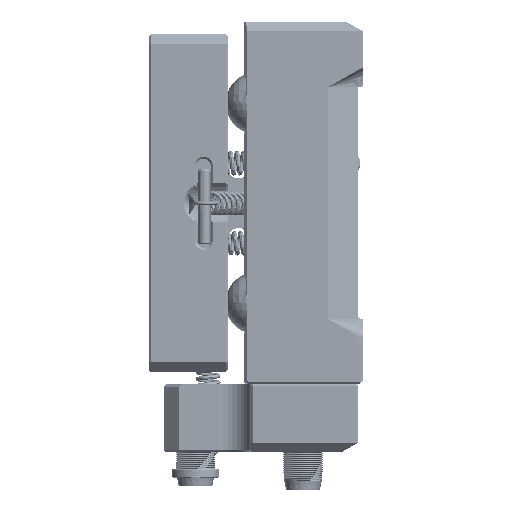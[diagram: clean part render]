
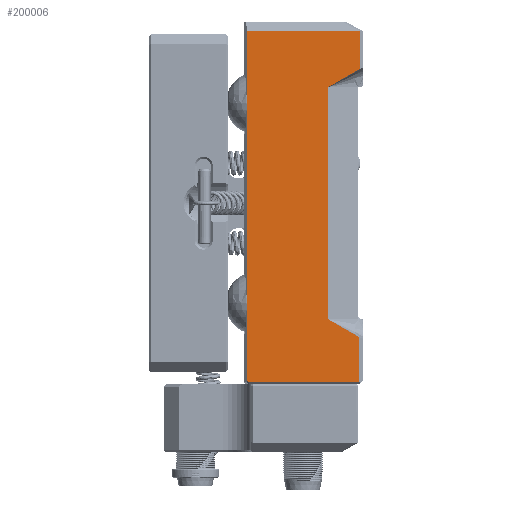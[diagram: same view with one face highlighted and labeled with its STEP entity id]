
A CAD part, left-side view. The second image highlights one B-rep face of the part: STEP entity #200006.
In plain terms, the highlighted planar face has unit normal (-1, 0, 0).
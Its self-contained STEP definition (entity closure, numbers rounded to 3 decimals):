
#189621=CARTESIAN_POINT('',(-29.972,-7.12,17.041));
#189718=DIRECTION('',(0.,0.,-1.));
#189719=VECTOR('',#189718,29.528);
#189720=CARTESIAN_POINT('',(-29.972,-3.175,14.764));
#189721=LINE('',#189720,#189719);
#190264=DIRECTION('',(0.,0.,1.));
#190265=VECTOR('',#190264,4.777);
#190266=CARTESIAN_POINT('',(-29.972,-7.12,17.041));
#190267=LINE('',#190266,#190265);
#190268=DIRECTION('',(0.,0.866,-0.5));
#190269=VECTOR('',#190268,4.555);
#190270=CARTESIAN_POINT('',(-29.972,-7.12,17.041));
#190271=LINE('',#190270,#190269);
#190272=DIRECTION('',(0.,0.866,0.5));
#190273=VECTOR('',#190272,4.546);
#190274=CARTESIAN_POINT('',(-29.972,-7.112,-17.037));
#190275=LINE('',#190274,#190273);
#190276=DIRECTION('',(0.,0.72,0.694));
#190277=VECTOR('',#190276,0.368);
#190278=CARTESIAN_POINT('',(-29.972,6.911,-22.765));
#190279=LINE('',#190278,#190277);
#190280=DIRECTION('',(0.,-1.,0.));
#190281=VECTOR('',#190280,14.296);
#190282=CARTESIAN_POINT('',(-29.972,7.176,21.819));
#190283=LINE('',#190282,#190281);
#190287=CARTESIAN_POINT('',(-29.972,-7.112,-17.037));
#190297=DIRECTION('',(0.,0.,-1.));
#190298=VECTOR('',#190297,5.728);
#190299=CARTESIAN_POINT('',(-29.972,-7.112,-17.037));
#190300=LINE('',#190299,#190298);
#190429=DIRECTION('',(0.,0.,-1.));
#190430=VECTOR('',#190429,44.328);
#190431=CARTESIAN_POINT('',(-29.972,7.176,21.819));
#190432=LINE('',#190431,#190430);
#190795=DIRECTION('',(0.,1.,0.));
#190796=VECTOR('',#190795,14.023);
#190797=CARTESIAN_POINT('',(-29.972,-7.112,-22.765));
#190798=LINE('',#190797,#190796);
#197081=CARTESIAN_POINT('',(-29.972,6.911,-22.765));
#197083=VERTEX_POINT('',#197081);
#197317=CARTESIAN_POINT('',(-29.972,-7.112,-22.765));
#197319=VERTEX_POINT('',#197317);
#197576=VERTEX_POINT('',#190287);
#197604=CARTESIAN_POINT('',(-29.972,-3.175,14.764));
#197605=VERTEX_POINT('',#197604);
#197610=CARTESIAN_POINT('',(-29.972,-3.175,-14.764));
#197611=VERTEX_POINT('',#197610);
#198075=CARTESIAN_POINT('',(-29.972,7.176,-22.509));
#198076=VERTEX_POINT('',#198075);
#198083=CARTESIAN_POINT('',(-29.972,7.176,21.819));
#198085=VERTEX_POINT('',#198083);
#198118=VERTEX_POINT('',#189621);
#198119=CARTESIAN_POINT('',(-29.972,-7.12,21.819));
#198120=VERTEX_POINT('',#198119);
#199986=CARTESIAN_POINT('',(-29.972,7.62,-23.019));
#199987=DIRECTION('',(1.,0.,0.));
#199988=DIRECTION('',(0.,0.,-1.));
#199989=AXIS2_PLACEMENT_3D('',#199986,#199987,#199988);
#199990=PLANE('',#199989);
#199991=ORIENTED_EDGE('',*,*,#199164,.F.);
#199992=ORIENTED_EDGE('',*,*,#199190,.T.);
#199993=ORIENTED_EDGE('',*,*,#199298,.T.);
#199994=ORIENTED_EDGE('',*,*,#199317,.F.);
#199996=ORIENTED_EDGE('',*,*,#199995,.T.);
#199998=ORIENTED_EDGE('',*,*,#199997,.T.);
#200000=ORIENTED_EDGE('',*,*,#199999,.T.);
#200002=ORIENTED_EDGE('',*,*,#200001,.F.);
#200003=ORIENTED_EDGE('',*,*,#199977,.T.);
#200004=EDGE_LOOP('',(#199991,#199992,#199993,#199994,#199996,#199998,#200000,
#200002,#200003));
#200005=FACE_OUTER_BOUND('',#200004,.F.);
#200006=ADVANCED_FACE('',(#200005),#199990,.F.);
#199164=EDGE_CURVE('',#198118,#198120,#190267,.T.);
#199190=EDGE_CURVE('',#198118,#197605,#190271,.T.);
#199298=EDGE_CURVE('',#197605,#197611,#189721,.T.);
#199317=EDGE_CURVE('',#197576,#197611,#190275,.T.);
#199977=EDGE_CURVE('',#198085,#198120,#190283,.T.);
#199995=EDGE_CURVE('',#197576,#197319,#190300,.T.);
#199997=EDGE_CURVE('',#197319,#197083,#190798,.T.);
#199999=EDGE_CURVE('',#197083,#198076,#190279,.T.);
#200001=EDGE_CURVE('',#198085,#198076,#190432,.T.);
